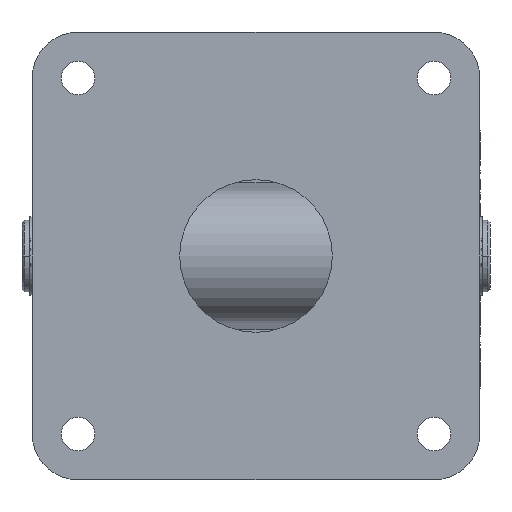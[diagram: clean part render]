
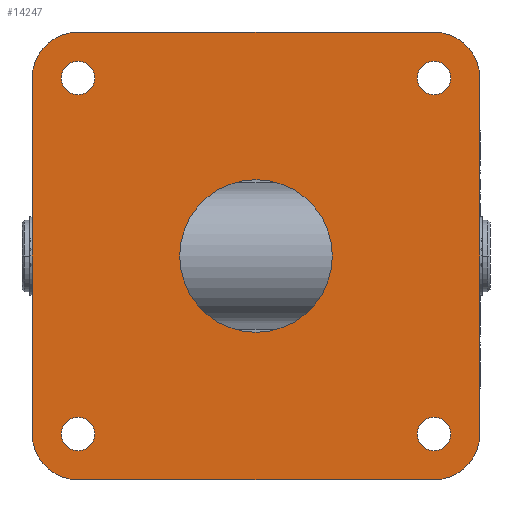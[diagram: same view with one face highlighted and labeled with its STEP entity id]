
A CAD part, left-side view. The second image highlights one B-rep face of the part: STEP entity #14247.
In plain terms, the highlighted planar face has unit normal (-1, 0, 0).
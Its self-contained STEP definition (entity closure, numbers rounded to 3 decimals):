
#14020=CARTESIAN_POINT('Vertex',(-22.,110.,-87.5)) ;
#14023=CARTESIAN_POINT('Line Origine',(-22.,110.,0.)) ;
#14027=CARTESIAN_POINT('Vertex',(-22.,110.,87.5)) ;
#14095=CARTESIAN_POINT('Axis2P3D Location',(-22.,0.,0.)) ;
#14100=CARTESIAN_POINT('Line Origine',(-22.,0.,110.)) ;
#14104=CARTESIAN_POINT('Vertex',(-22.,87.5,110.)) ;
#14106=CARTESIAN_POINT('Vertex',(-22.,-87.5,110.)) ;
#14109=CARTESIAN_POINT('Axis2P3D Location',(-22.,87.5,87.5)) ;
#14114=CARTESIAN_POINT('Axis2P3D Location',(-22.,87.5,-87.5)) ;
#14118=CARTESIAN_POINT('Vertex',(-22.,87.5,-110.)) ;
#14121=CARTESIAN_POINT('Line Origine',(-22.,0.,-110.)) ;
#14125=CARTESIAN_POINT('Vertex',(-22.,-87.5,-110.)) ;
#14128=CARTESIAN_POINT('Axis2P3D Location',(-22.,-87.5,-87.5)) ;
#14132=CARTESIAN_POINT('Vertex',(-22.,-110.,-87.5)) ;
#14135=CARTESIAN_POINT('Line Origine',(-22.,-110.,0.)) ;
#14139=CARTESIAN_POINT('Vertex',(-22.,-110.,87.5)) ;
#14142=CARTESIAN_POINT('Axis2P3D Location',(-22.,-87.5,87.5)) ;
#14157=CARTESIAN_POINT('Axis2P3D Location',(-22.,0.,0.)) ;
#14161=CARTESIAN_POINT('Vertex',(-22.,37.5,0.)) ;
#14163=CARTESIAN_POINT('Vertex',(-22.,-37.5,0.)) ;
#14166=CARTESIAN_POINT('Axis2P3D Location',(-22.,0.,0.)) ;
#14175=CARTESIAN_POINT('Axis2P3D Location',(-22.,-87.5,87.5)) ;
#14179=CARTESIAN_POINT('Vertex',(-22.,-79.25,87.5)) ;
#14181=CARTESIAN_POINT('Vertex',(-22.,-95.75,87.5)) ;
#14184=CARTESIAN_POINT('Axis2P3D Location',(-22.,-87.5,87.5)) ;
#14193=CARTESIAN_POINT('Axis2P3D Location',(-22.,-87.5,-87.5)) ;
#14197=CARTESIAN_POINT('Vertex',(-22.,-79.25,-87.5)) ;
#14199=CARTESIAN_POINT('Vertex',(-22.,-95.75,-87.5)) ;
#14202=CARTESIAN_POINT('Axis2P3D Location',(-22.,-87.5,-87.5)) ;
#14211=CARTESIAN_POINT('Axis2P3D Location',(-22.,87.5,-87.5)) ;
#14215=CARTESIAN_POINT('Vertex',(-22.,79.25,-87.5)) ;
#14217=CARTESIAN_POINT('Vertex',(-22.,95.75,-87.5)) ;
#14220=CARTESIAN_POINT('Axis2P3D Location',(-22.,87.5,-87.5)) ;
#14229=CARTESIAN_POINT('Axis2P3D Location',(-22.,87.5,87.5)) ;
#14233=CARTESIAN_POINT('Vertex',(-22.,79.25,87.5)) ;
#14235=CARTESIAN_POINT('Vertex',(-22.,95.75,87.5)) ;
#14238=CARTESIAN_POINT('Axis2P3D Location',(-22.,87.5,87.5)) ;
#14024=DIRECTION('Vector Direction',(0.,0.,1.)) ;
#14096=DIRECTION('Axis2P3D Direction',(1.,0.,0.)) ;
#14097=DIRECTION('Axis2P3D XDirection',(0.,1.,0.)) ;
#14101=DIRECTION('Vector Direction',(0.,1.,0.)) ;
#14110=DIRECTION('Axis2P3D Direction',(1.,0.,0.)) ;
#14115=DIRECTION('Axis2P3D Direction',(1.,0.,0.)) ;
#14122=DIRECTION('Vector Direction',(0.,-1.,0.)) ;
#14129=DIRECTION('Axis2P3D Direction',(1.,0.,0.)) ;
#14136=DIRECTION('Vector Direction',(0.,0.,-1.)) ;
#14143=DIRECTION('Axis2P3D Direction',(1.,0.,0.)) ;
#14158=DIRECTION('Axis2P3D Direction',(1.,0.,0.)) ;
#14167=DIRECTION('Axis2P3D Direction',(1.,0.,0.)) ;
#14176=DIRECTION('Axis2P3D Direction',(1.,0.,0.)) ;
#14185=DIRECTION('Axis2P3D Direction',(1.,0.,0.)) ;
#14194=DIRECTION('Axis2P3D Direction',(1.,0.,0.)) ;
#14203=DIRECTION('Axis2P3D Direction',(1.,0.,0.)) ;
#14212=DIRECTION('Axis2P3D Direction',(1.,0.,0.)) ;
#14221=DIRECTION('Axis2P3D Direction',(1.,0.,0.)) ;
#14230=DIRECTION('Axis2P3D Direction',(1.,0.,0.)) ;
#14239=DIRECTION('Axis2P3D Direction',(1.,0.,0.)) ;
#14098=AXIS2_PLACEMENT_3D('Plane Axis2P3D',#14095,#14096,#14097) ;
#14111=AXIS2_PLACEMENT_3D('Circle Axis2P3D',#14109,#14110,$) ;
#14116=AXIS2_PLACEMENT_3D('Circle Axis2P3D',#14114,#14115,$) ;
#14130=AXIS2_PLACEMENT_3D('Circle Axis2P3D',#14128,#14129,$) ;
#14144=AXIS2_PLACEMENT_3D('Circle Axis2P3D',#14142,#14143,$) ;
#14159=AXIS2_PLACEMENT_3D('Circle Axis2P3D',#14157,#14158,$) ;
#14168=AXIS2_PLACEMENT_3D('Circle Axis2P3D',#14166,#14167,$) ;
#14177=AXIS2_PLACEMENT_3D('Circle Axis2P3D',#14175,#14176,$) ;
#14186=AXIS2_PLACEMENT_3D('Circle Axis2P3D',#14184,#14185,$) ;
#14195=AXIS2_PLACEMENT_3D('Circle Axis2P3D',#14193,#14194,$) ;
#14204=AXIS2_PLACEMENT_3D('Circle Axis2P3D',#14202,#14203,$) ;
#14213=AXIS2_PLACEMENT_3D('Circle Axis2P3D',#14211,#14212,$) ;
#14222=AXIS2_PLACEMENT_3D('Circle Axis2P3D',#14220,#14221,$) ;
#14231=AXIS2_PLACEMENT_3D('Circle Axis2P3D',#14229,#14230,$) ;
#14240=AXIS2_PLACEMENT_3D('Circle Axis2P3D',#14238,#14239,$) ;
#14148=ORIENTED_EDGE('',*,*,#14108,.F.) ;
#14149=ORIENTED_EDGE('',*,*,#14113,.F.) ;
#14150=ORIENTED_EDGE('',*,*,#14029,.F.) ;
#14151=ORIENTED_EDGE('',*,*,#14120,.F.) ;
#14152=ORIENTED_EDGE('',*,*,#14127,.F.) ;
#14153=ORIENTED_EDGE('',*,*,#14134,.F.) ;
#14154=ORIENTED_EDGE('',*,*,#14141,.F.) ;
#14155=ORIENTED_EDGE('',*,*,#14146,.F.) ;
#14172=ORIENTED_EDGE('',*,*,#14165,.F.) ;
#14173=ORIENTED_EDGE('',*,*,#14170,.F.) ;
#14190=ORIENTED_EDGE('',*,*,#14183,.T.) ;
#14191=ORIENTED_EDGE('',*,*,#14188,.T.) ;
#14208=ORIENTED_EDGE('',*,*,#14201,.T.) ;
#14209=ORIENTED_EDGE('',*,*,#14206,.T.) ;
#14226=ORIENTED_EDGE('',*,*,#14219,.T.) ;
#14227=ORIENTED_EDGE('',*,*,#14224,.T.) ;
#14244=ORIENTED_EDGE('',*,*,#14237,.T.) ;
#14245=ORIENTED_EDGE('',*,*,#14242,.T.) ;
#14174=FACE_BOUND('',#14171,.T.) ;
#14192=FACE_BOUND('',#14189,.T.) ;
#14210=FACE_BOUND('',#14207,.T.) ;
#14228=FACE_BOUND('',#14225,.T.) ;
#14246=FACE_BOUND('',#14243,.T.) ;
#14025=VECTOR('Line Direction',#14024,1.) ;
#14102=VECTOR('Line Direction',#14101,1.) ;
#14123=VECTOR('Line Direction',#14122,1.) ;
#14137=VECTOR('Line Direction',#14136,1.) ;
#14247=ADVANCED_FACE('PartBody',(#14156,#14174,#14192,#14210,#14228,#14246),#14099,.F.) ;
#14112=CIRCLE('generated circle',#14111,22.5) ;
#14117=CIRCLE('generated circle',#14116,22.5) ;
#14131=CIRCLE('generated circle',#14130,22.5) ;
#14145=CIRCLE('generated circle',#14144,22.5) ;
#14160=CIRCLE('generated circle',#14159,37.5) ;
#14169=CIRCLE('generated circle',#14168,37.5) ;
#14178=CIRCLE('generated circle',#14177,8.25) ;
#14187=CIRCLE('generated circle',#14186,8.25) ;
#14196=CIRCLE('generated circle',#14195,8.25) ;
#14205=CIRCLE('generated circle',#14204,8.25) ;
#14214=CIRCLE('generated circle',#14213,8.25) ;
#14223=CIRCLE('generated circle',#14222,8.25) ;
#14232=CIRCLE('generated circle',#14231,8.25) ;
#14241=CIRCLE('generated circle',#14240,8.25) ;
#14029=EDGE_CURVE('',#14021,#14028,#14026,.T.) ;
#14108=EDGE_CURVE('',#14105,#14107,#14103,.F.) ;
#14113=EDGE_CURVE('',#14028,#14105,#14112,.T.) ;
#14120=EDGE_CURVE('',#14119,#14021,#14117,.T.) ;
#14127=EDGE_CURVE('',#14126,#14119,#14124,.F.) ;
#14134=EDGE_CURVE('',#14133,#14126,#14131,.T.) ;
#14141=EDGE_CURVE('',#14140,#14133,#14138,.T.) ;
#14146=EDGE_CURVE('',#14107,#14140,#14145,.T.) ;
#14165=EDGE_CURVE('',#14162,#14164,#14160,.F.) ;
#14170=EDGE_CURVE('',#14164,#14162,#14169,.F.) ;
#14183=EDGE_CURVE('',#14180,#14182,#14178,.T.) ;
#14188=EDGE_CURVE('',#14182,#14180,#14187,.T.) ;
#14201=EDGE_CURVE('',#14198,#14200,#14196,.T.) ;
#14206=EDGE_CURVE('',#14200,#14198,#14205,.T.) ;
#14219=EDGE_CURVE('',#14216,#14218,#14214,.T.) ;
#14224=EDGE_CURVE('',#14218,#14216,#14223,.T.) ;
#14237=EDGE_CURVE('',#14234,#14236,#14232,.T.) ;
#14242=EDGE_CURVE('',#14236,#14234,#14241,.T.) ;
#14147=EDGE_LOOP('',(#14148,#14149,#14150,#14151,#14152,#14153,#14154,#14155)) ;
#14171=EDGE_LOOP('',(#14172,#14173)) ;
#14189=EDGE_LOOP('',(#14190,#14191)) ;
#14207=EDGE_LOOP('',(#14208,#14209)) ;
#14225=EDGE_LOOP('',(#14226,#14227)) ;
#14243=EDGE_LOOP('',(#14244,#14245)) ;
#14156=FACE_OUTER_BOUND('',#14147,.T.) ;
#14026=LINE('Line',#14023,#14025) ;
#14103=LINE('Line',#14100,#14102) ;
#14124=LINE('Line',#14121,#14123) ;
#14138=LINE('Line',#14135,#14137) ;
#14099=PLANE('',#14098) ;
#14021=VERTEX_POINT('',#14020) ;
#14028=VERTEX_POINT('',#14027) ;
#14105=VERTEX_POINT('',#14104) ;
#14107=VERTEX_POINT('',#14106) ;
#14119=VERTEX_POINT('',#14118) ;
#14126=VERTEX_POINT('',#14125) ;
#14133=VERTEX_POINT('',#14132) ;
#14140=VERTEX_POINT('',#14139) ;
#14162=VERTEX_POINT('',#14161) ;
#14164=VERTEX_POINT('',#14163) ;
#14180=VERTEX_POINT('',#14179) ;
#14182=VERTEX_POINT('',#14181) ;
#14198=VERTEX_POINT('',#14197) ;
#14200=VERTEX_POINT('',#14199) ;
#14216=VERTEX_POINT('',#14215) ;
#14218=VERTEX_POINT('',#14217) ;
#14234=VERTEX_POINT('',#14233) ;
#14236=VERTEX_POINT('',#14235) ;
